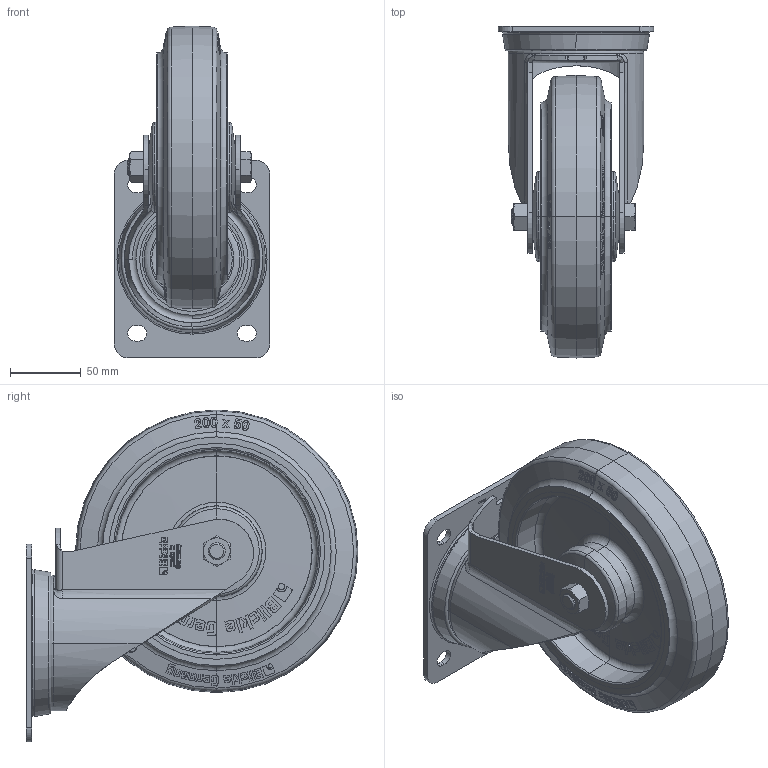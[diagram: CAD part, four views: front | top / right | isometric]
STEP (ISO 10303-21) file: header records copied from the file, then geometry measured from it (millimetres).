
FILE_DESCRIPTION (( 'STEP AP214' ), '1' );
FILE_NAME ('L-POEV_200K-SB_669655-214.step', '2021-12-22T13:08:15', ( '' ), ( '' ), 'SwSTEP 2.0', 'SolidWorks 2018', '' );
FILE_SCHEMA (( 'AUTOMOTIVE_DESIGN' ));
Length unit declared in the file: millimetre
Products named in the file (5): GH-L-200x60-03_12x62_G16_3D; GH-L_175-200_GH-L-200x60-03_12x62; POEV_200_3D_G16_POEV_200_12K-SB_905330; L-POEV_200K-SB_669655-214; POEV_200_12K-SB_G16_3D
Assembly tree (4 placements, depth 3):
  L-POEV_200K-SB_669655-214
    GH-L_175-200_GH-L-200x60-03_12x62
      GH-L-200x60-03_12x62_G16_3D
    POEV_200_3D_G16_POEV_200_12K-SB_905330
      POEV_200_12K-SB_G16_3D
Bounding box: 110 x 235 x 235 mm (x, y, z)
Volume: 1072812.6 mm3; surface area: 250983.1 mm2
Topology: 2 solids, 9 shells, 3515 faces, 9493 edges, 6213 vertices
Faces by surface type: plane 1466, bspline 1376, cone 341, torus 216, cylinder 116
Entity records: 163407 total; most frequent: CARTESIAN_POINT 64386, ORIENTED_EDGE 18986, DIRECTION 10010, EDGE_CURVE 9493, VERTEX_POINT 6213, B_SPLINE_CURVE_WITH_KNOTS 4692, VECTOR 3856, LINE 3856
